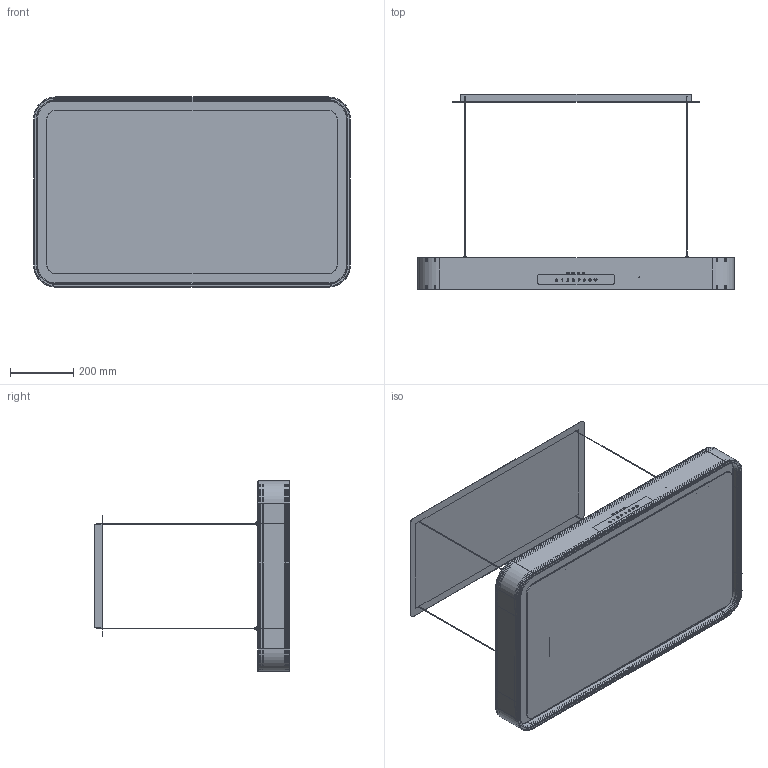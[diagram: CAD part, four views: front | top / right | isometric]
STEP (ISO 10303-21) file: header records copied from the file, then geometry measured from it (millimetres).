
FILE_DESCRIPTION(/* description */ (''),/* implementation_level */ '2;1');
FILE_NAME(/* name */ 'KSLS10X.stp',/* time_stamp */ '2026-08-05T08:31:30+02:00',/* author */ (''),/* organization */ (''),/* preprocessor_version */ 'ST-DEVELOPER v20',/* originating_system */ 'SIEMENS PLM Software NX2412.4001',/* authorisation */ '');
FILE_SCHEMA (('AUTOMOTIVE_DESIGN { 1 0 10303 214 3 1 1 1 }'));
Products named in the file (1): Assy_CAPPA 100_sparam_objects
Bounding box: 1000 x 615.9 x 600.5 mm (x, y, z)
Volume: 11104979.5 mm3; surface area: 6270589.4 mm2
Topology: 25 solids, 27 shells, 2883 faces, 7831 edges, 5010 vertices
Faces by surface type: plane 1808, cylinder 735, torus 212, bspline 60, cone 36, extrusion 20, sphere 12
Full cylindrical faces by diameter (mm): 1.5 x4, 2 x4, 3.5 x1, 5 x4, 8.376 x2, 10 x4, 12 x4, 12.8 x2, 13.5 x4, 14 x2, 16 x2
Entity records: 99116 total; most frequent: CARTESIAN_POINT 25743, ORIENTED_EDGE 15662, DIRECTION 14771, EDGE_CURVE 7831, VECTOR 5783, LINE 5763, VERTEX_POINT 5010, AXIS2_PLACEMENT_3D 4494
